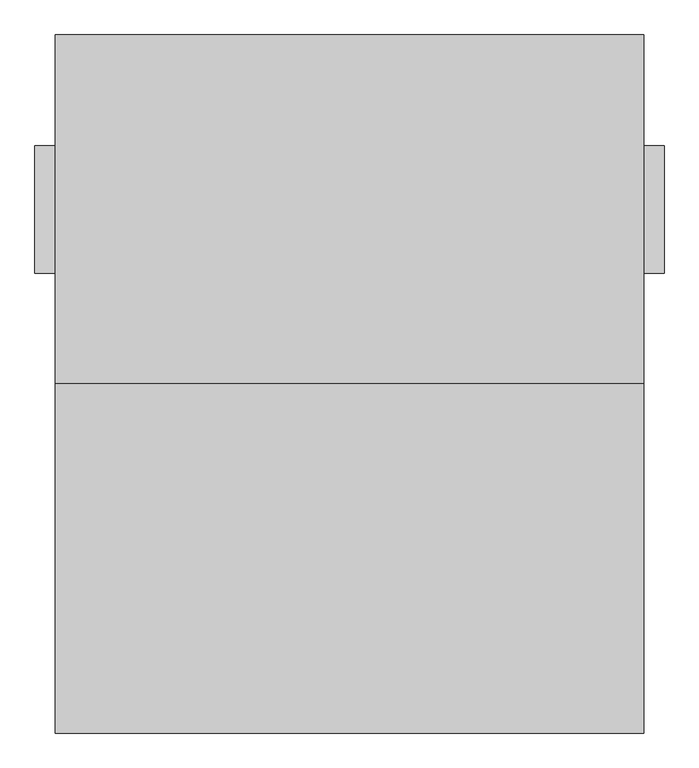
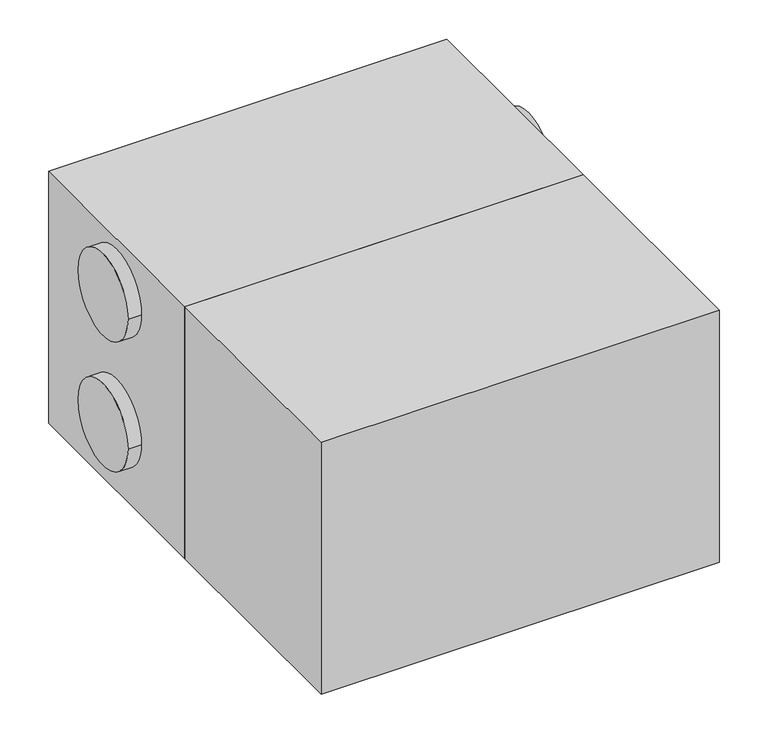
"""IFC4 building model written with IfcOpenShell, lengths in millimetres: proxy geometry, ADSK_КПВУ RIVIERA-EC HRW_круглая : Riviera-EC HRW 2200."""

from ifc_helpers import new_model, si_unit, point, frame, frame_2d, origin, place, context, project, spatial, polyline, circle_curve, trimmed, segment, composite_curve, outline, extrude, source, transform, mapped, element, save


def mechanical_equipment_29a00ad4(model_context):
    return source(origin(), model_context, "Body", "SweptSolid", [
        extrude(outline(polyline([(991.0, -430.0), (991.0, -1290.0), (-459.0, -1290.0), (-459.0, -430.0), (991.0, -430.0)])), frame((0.0, 0.0, 70.0), z_axis=(0.0, 0.0, 1.0), x_axis=(1.0, 0.0, 0.0)), (0.0, 0.0, 1.0), 970.0),
        extrude(outline(polyline([(991.0, 430.0), (991.0, -430.0), (-459.0, -430.0), (-459.0, 430.0), (991.0, 430.0)])), frame((0.0, 0.0, 70.0), z_axis=(0.0, 0.0, 1.0), x_axis=(1.0, 0.0, 0.0)), (0.0, 0.0, 1.0), 970.0),
        extrude(outline(composite_curve([segment(trimmed(circle_curve(frame_2d((0.0, 844.0)), 157.5), [point((-157.5, 844.0))], [point((157.5, 844.0))], False, "CARTESIAN"), True, "CONTINUOUS"), segment(trimmed(circle_curve(frame_2d((0.0, 844.0)), 157.5), [point((157.5, 844.0))], [point((-157.5, 844.0))], False, "CARTESIAN"), True, "CONTINUOUS")], self_intersect=False)), frame((-509.0, 0.0, 0.0), z_axis=(1.0, 0.0, 0.0), x_axis=(0.0, 1.0, 0.0)), (0.0, 0.0, 1.0), 50.0),
        extrude(outline(composite_curve([segment(trimmed(circle_curve(frame_2d((0.0, 344.0)), 157.5), [point((-157.5, 344.0))], [point((157.5, 344.0))], False, "CARTESIAN"), True, "CONTINUOUS"), segment(trimmed(circle_curve(frame_2d((0.0, 344.0)), 157.5), [point((157.5, 344.0))], [point((-157.5, 344.0))], False, "CARTESIAN"), True, "CONTINUOUS")], self_intersect=False)), frame((-509.0, 0.0, 0.0), z_axis=(1.0, 0.0, 0.0), x_axis=(0.0, 1.0, 0.0)), (0.0, 0.0, 1.0), 50.0),
        extrude(outline(composite_curve([segment(trimmed(circle_curve(frame_2d((0.0, 844.0)), 157.5), [point((-157.5, 844.0))], [point((157.5, 844.0))], False, "CARTESIAN"), True, "CONTINUOUS"), segment(trimmed(circle_curve(frame_2d((0.0, 844.0)), 157.5), [point((157.5, 844.0))], [point((-157.5, 844.0))], False, "CARTESIAN"), True, "CONTINUOUS")], self_intersect=False)), frame((991.0, 0.0, 0.0), z_axis=(1.0, 0.0, 0.0), x_axis=(0.0, 1.0, 0.0)), (0.0, 0.0, 1.0), 50.0),
        extrude(outline(composite_curve([segment(trimmed(circle_curve(frame_2d((0.0, 344.0)), 157.5), [point((-157.5, 344.0))], [point((157.5, 344.0))], False, "CARTESIAN"), True, "CONTINUOUS"), segment(trimmed(circle_curve(frame_2d((0.0, 344.0)), 157.5), [point((157.5, 344.0))], [point((-157.5, 344.0))], False, "CARTESIAN"), True, "CONTINUOUS")], self_intersect=False)), frame((991.0, 0.0, 0.0), z_axis=(1.0, 0.0, 0.0), x_axis=(0.0, 1.0, 0.0)), (0.0, 0.0, 1.0), 50.0),
        extrude(outline(polyline([(0.0, -279.0), (70.0, -279.0), (70.0, -289.0), (10.0, -289.0), (10.0, -329.0), (70.0, -329.0), (70.0, -339.0), (0.0, -339.0), (0.0, -279.0)])), frame((0.0, -430.0, 0.0), z_axis=(0.0, 1.0, 0.0), x_axis=(0.0, 0.0, 1.0)), (0.0, 0.0, 1.0), 860.0),
        extrude(outline(polyline([(0.0, 871.0), (70.0, 871.0), (70.0, 861.0), (10.0, 861.0), (10.0, 821.0), (70.0, 821.0), (70.0, 811.0), (0.0, 811.0), (0.0, 871.0)])), frame((0.0, -430.0, 0.0), z_axis=(0.0, 1.0, 0.0), x_axis=(0.0, 0.0, 1.0)), (0.0, 0.0, 1.0), 860.0),
    ])


if __name__ == "__main__":
    model = new_model("IFC4")
    model_context = context("Model", 3, world=origin())
    ifc_project = project(units=[si_unit("LENGTHUNIT", "METRE", prefix="MILLI")], contexts=[model_context])
    site = spatial("IfcSite", under=ifc_project)
    building = spatial("IfcBuilding", under=site)
    placement = place(None, origin())
    mechanical_equipment_shape = mechanical_equipment_29a00ad4(model_context)
    element("IfcBuildingElementProxy", 1, Name="ADSK_КПВУ RIVIERA-EC HRW_круглая : Riviera-EC HRW 2200", ObjectType="ADSK_КПВУ RIVIERA-EC HRW_круглая : Riviera-EC HRW 2200", at=placement, inside=building, context=model_context, shape_type="MappedRepresentation", body=[
        mapped(mechanical_equipment_shape, transform((0.0, 0.0, 0.0), x_axis=(1.0, 0.0, 0.0), y_axis=(0.0, 1.0, 0.0), z_axis=(0.0, 0.0, 1.0))),
    ])
    save(model, "model.ifc")
